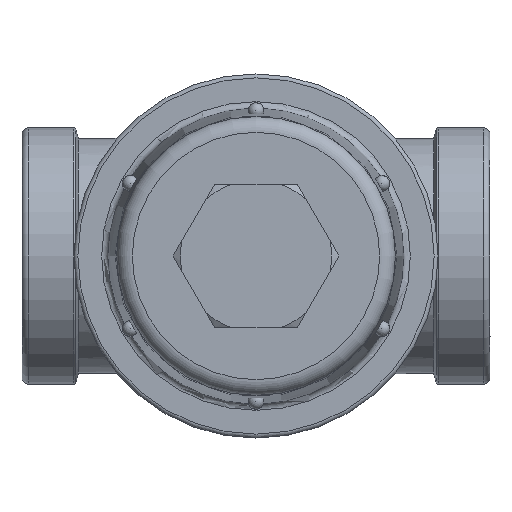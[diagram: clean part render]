
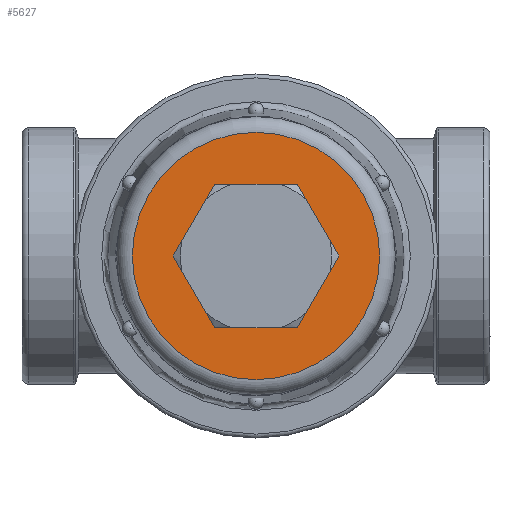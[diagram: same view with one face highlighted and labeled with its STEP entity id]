
A CAD part, front view. The second image highlights one B-rep face of the part: STEP entity #5627.
In plain terms, the highlighted planar face has unit normal (0, -1, 0).
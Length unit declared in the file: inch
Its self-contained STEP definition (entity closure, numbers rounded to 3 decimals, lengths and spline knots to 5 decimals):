
#1087=PLANE('',#5966);
#1646=B_SPLINE_CURVE_WITH_KNOTS('',3,(#12954,#12955,#12956,#12957,#12958,
#12959,#12960,#12961,#12962,#12963,#12964,#12965,#12966,#12967,#12968,#12969),
 .UNSPECIFIED.,.F.,.U.,(4,2,2,2,2,2,2,4),(0.,0.41145,0.61163,
0.80998,1.21376,1.60546,1.93788,2.26304),
 .UNSPECIFIED.);
#1657=B_SPLINE_CURVE_WITH_KNOTS('',3,(#19562,#19563,#19564,#19565,#19566,
#19567,#19568,#19569,#19570,#19571,#19572,#19573,#19574,#19575,#19576,#19577,
#19578,#19579),.UNSPECIFIED.,.F.,.U.,(4,2,2,2,2,2,2,2,4),(0.,0.2601,
0.52274,0.8999,1.31513,1.77401,2.24209,
2.63266,3.03035),.UNSPECIFIED.);
#1920=VERTEX_POINT('',#12953);
#1921=VERTEX_POINT('',#12970);
#1925=VERTEX_POINT('',#13754);
#1926=VERTEX_POINT('',#13758);
#1932=VERTEX_POINT('',#19561);
#1960=VERTEX_POINT('',#23947);
#2420=CIRCLE('',#5906,0.40175);
#2421=CIRCLE('',#5908,0.40175);
#2422=CIRCLE('',#5916,0.41788);
#2446=CIRCLE('',#5962,0.94057);
#2593=EDGE_CURVE('',#1921,#1920,#1646,.T.);
#2598=EDGE_CURVE('',#1920,#1925,#2420,.T.);
#2600=EDGE_CURVE('',#1925,#1926,#2421,.T.);
#2608=EDGE_CURVE('',#1926,#1932,#1657,.T.);
#2620=EDGE_CURVE('',#1932,#1921,#2422,.T.);
#2645=EDGE_CURVE('',#1960,#1960,#2446,.T.);
#3463=ORIENTED_EDGE('',*,*,#2608,.T.);
#3464=ORIENTED_EDGE('',*,*,#2620,.T.);
#3465=ORIENTED_EDGE('',*,*,#2593,.T.);
#3466=ORIENTED_EDGE('',*,*,#2598,.T.);
#3467=ORIENTED_EDGE('',*,*,#2600,.T.);
#3468=ORIENTED_EDGE('',*,*,#2645,.F.);
#4851=EDGE_LOOP('',(#3463,#3464,#3465,#3466,#3467));
#4852=EDGE_LOOP('',(#3468));
#5251=FACE_BOUND('',#4851,.T.);
#5252=FACE_BOUND('',#4852,.T.);
#5627=ADVANCED_FACE('',(#5251,#5252),#1087,.T.);
#5906=AXIS2_PLACEMENT_3D('',#13753,#138627,#138628);
#5908=AXIS2_PLACEMENT_3D('',#13757,#138632,#138633);
#5916=AXIS2_PLACEMENT_3D('',#20181,#138654,#138655);
#5962=AXIS2_PLACEMENT_3D('',#23946,#138734,#138735);
#5966=AXIS2_PLACEMENT_3D('',#24300,#138742,$);
#12953=CARTESIAN_POINT('',(-0.17928,-3.81,-0.35953));
#12954=CARTESIAN_POINT('',(0.15803,-3.81,-0.38782));
#12955=CARTESIAN_POINT('',(0.10711,-3.81,-0.40579));
#12956=CARTESIAN_POINT('',(0.05315,-3.81,-0.41373));
#12957=CARTESIAN_POINT('',(-0.02701,-3.81,-0.40965));
#12958=CARTESIAN_POINT('',(-0.05312,-3.81,-0.40579));
#12959=CARTESIAN_POINT('',(-0.10387,-3.81,-0.3932));
#12960=CARTESIAN_POINT('',(-0.12831,-3.81,-0.38456));
#12961=CARTESIAN_POINT('',(-0.19964,-3.81,-0.35135));
#12962=CARTESIAN_POINT('',(-0.2424,-3.81,-0.32006));
#12963=CARTESIAN_POINT('',(-0.31225,-3.81,-0.24374));
#12964=CARTESIAN_POINT('',(-0.339,-3.81,-0.1999));
#12965=CARTESIAN_POINT('',(-0.37137,-3.81,-0.11165));
#12966=CARTESIAN_POINT('',(-0.37944,-3.81,-0.06863));
#12967=CARTESIAN_POINT('',(-0.3806,-3.81,0.01729));
#12968=CARTESIAN_POINT('',(-0.37406,-3.81,0.0597));
#12969=CARTESIAN_POINT('',(-0.36045,-3.81,0.10014));
#12970=CARTESIAN_POINT('',(0.14019,-3.81,-0.39367));
#13753=CARTESIAN_POINT('',(0.,-3.81,0.));
#13754=CARTESIAN_POINT('',(0.0591,-3.81,0.39738));
#13757=CARTESIAN_POINT('',(0.,-3.81,0.));
#13758=CARTESIAN_POINT('',(0.32994,-3.81,0.22921));
#19561=CARTESIAN_POINT('',(0.40716,-3.81,-0.09406));
#19562=CARTESIAN_POINT('',(-0.24129,-3.81,0.27963));
#19563=CARTESIAN_POINT('',(-0.21665,-3.81,0.30325));
#19564=CARTESIAN_POINT('',(-0.18893,-3.81,0.3233));
#19565=CARTESIAN_POINT('',(-0.12814,-3.81,0.35563));
#19566=CARTESIAN_POINT('',(-0.09555,-3.81,0.36758));
#19567=CARTESIAN_POINT('',(-0.01277,-3.81,0.38552));
#19568=CARTESIAN_POINT('',(0.03757,-3.81,0.38639));
#19569=CARTESIAN_POINT('',(0.14109,-3.81,0.36797));
#19570=CARTESIAN_POINT('',(0.18863,-3.81,0.3476));
#19571=CARTESIAN_POINT('',(0.27153,-3.81,0.2949));
#19572=CARTESIAN_POINT('',(0.30924,-3.81,0.25896));
#19573=CARTESIAN_POINT('',(0.3697,-3.81,0.17361));
#19574=CARTESIAN_POINT('',(0.39146,-3.81,0.12499));
#19575=CARTESIAN_POINT('',(0.41335,-3.81,0.03024));
#19576=CARTESIAN_POINT('',(0.41623,-3.81,-0.01409));
#19577=CARTESIAN_POINT('',(0.40794,-3.81,-0.10273));
#19578=CARTESIAN_POINT('',(0.39652,-3.81,-0.1464));
#19579=CARTESIAN_POINT('',(0.37856,-3.81,-0.18733));
#20181=CARTESIAN_POINT('',(0.,-3.81,0.));
#23946=CARTESIAN_POINT('',(0.,-3.81,0.));
#23947=CARTESIAN_POINT('',(0.94057,-3.81,0.));
#24300=CARTESIAN_POINT('',(0.,-3.81,0.));
#138627=DIRECTION('',(0.,1.,0.));
#138628=DIRECTION('',(-0.059,0.,-0.397));
#138632=DIRECTION('',(0.,1.,0.));
#138633=DIRECTION('',(-0.059,0.,-0.397));
#138654=DIRECTION('',(0.,1.,0.));
#138655=DIRECTION('',(0.061,0.,0.413));
#138734=DIRECTION('',(0.,1.,0.));
#138735=DIRECTION('',(-0.941,0.,0.));
#138742=DIRECTION('',(0.,-1.,0.));
